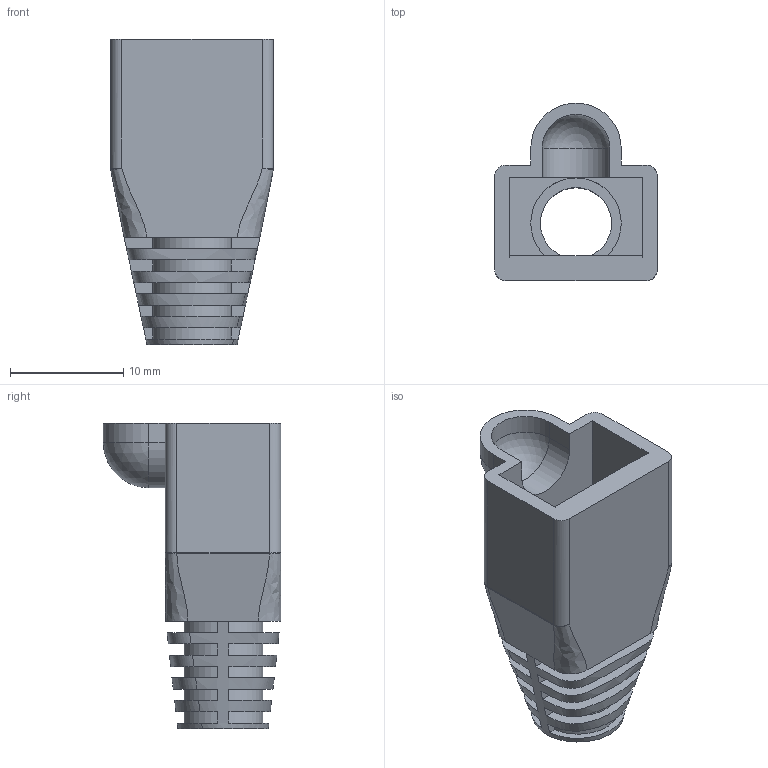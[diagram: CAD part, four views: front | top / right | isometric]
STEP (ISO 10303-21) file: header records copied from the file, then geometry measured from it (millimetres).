
FILE_DESCRIPTION(('FreeCAD Model'),'2;1');
FILE_NAME('Open CASCADE Shape Model','2022-03-23T15:09:52',( 'Engenharia Metaltex'),('Metaltex'), 'Open CASCADE STEP processor 7.5','FreeCAD','Unknown');
FILE_SCHEMA(('AUTOMOTIVE_DESIGN { 1 0 10303 214 1 1 1 1 }'));
Length unit declared in the file: millimetre
Products named in the file (1): TC
Bounding box: 14.4 x 15.7 x 27 mm (x, y, z)
Volume: 1603.9 mm3; surface area: 2537.2 mm2
Topology: 1 solids, 1 shells, 109 faces, 299 edges, 189 vertices
Faces by surface type: plane 64, cylinder 25, bspline 18, sphere 2
Entity records: 10631 total; most frequent: CARTESIAN_POINT 5324, DIRECTION 796, ORIENTED_EDGE 586, PCURVE 586, DEFINITIONAL_REPRESENTATION 586, LINE 475, VECTOR 475, B_SPLINE_CURVE_WITH_KNOTS 308
